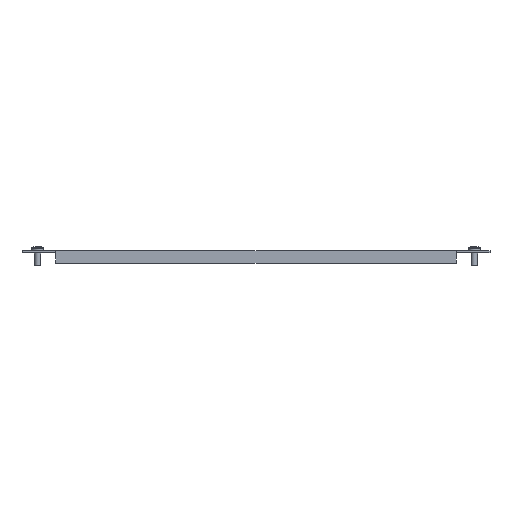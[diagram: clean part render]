
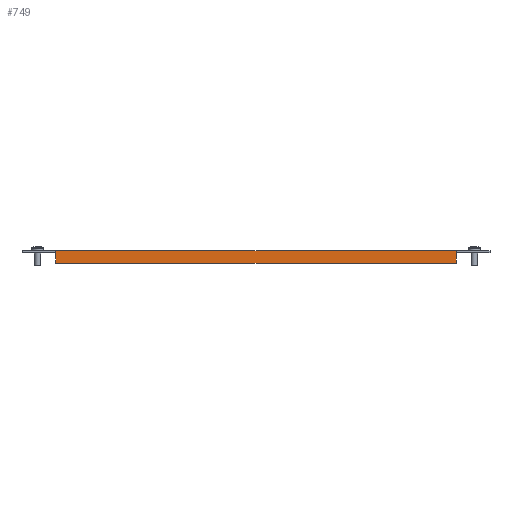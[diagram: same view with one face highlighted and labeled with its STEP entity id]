
A CAD part, front view. The second image highlights one B-rep face of the part: STEP entity #749.
In plain terms, the highlighted planar face has unit normal (0, -1, 0).
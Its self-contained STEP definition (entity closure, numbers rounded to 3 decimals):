
#15 = VECTOR ( 'NONE', #2665, 1000. ) ;
#65 = VERTEX_POINT ( 'NONE', #3348 ) ;
#91 = CARTESIAN_POINT ( 'NONE',  ( 0., -149., 0. ) ) ;
#106 = CARTESIAN_POINT ( 'NONE',  ( 0., -149., 0. ) ) ;
#261 = VERTEX_POINT ( 'NONE', #1034 ) ;
#302 = LINE ( 'NONE', #3390, #1549 ) ;
#338 = ORIENTED_EDGE ( 'NONE', *, *, #3004, .F. ) ;
#347 = EDGE_CURVE ( 'NONE', #65, #2356, #1511, .T. ) ;
#600 = VECTOR ( 'NONE', #901, 1000. ) ;
#625 = ORIENTED_EDGE ( 'NONE', *, *, #3580, .F. ) ;
#670 = VECTOR ( 'NONE', #1645, 1000. ) ;
#749 = ADVANCED_FACE ( 'NONE', ( #1200 ), #2625, .T. ) ;
#791 = VECTOR ( 'NONE', #2115, 1000. ) ;
#831 = CARTESIAN_POINT ( 'NONE',  ( -160.5, -149., 0. ) ) ;
#858 = VERTEX_POINT ( 'NONE', #1058 ) ;
#901 = DIRECTION ( 'NONE',  ( -1., 0., 0. ) ) ;
#972 = VERTEX_POINT ( 'NONE', #3078 ) ;
#1034 = CARTESIAN_POINT ( 'NONE',  ( 160.5, -149., -2.4 ) ) ;
#1058 = CARTESIAN_POINT ( 'NONE',  ( 160.5, -149., -10. ) ) ;
#1147 = ORIENTED_EDGE ( 'NONE', *, *, #3407, .F. ) ;
#1200 = FACE_OUTER_BOUND ( 'NONE', #3599, .T. ) ;
#1268 = LINE ( 'NONE', #2062, #791 ) ;
#1457 = EDGE_CURVE ( 'NONE', #261, #858, #1728, .T. ) ;
#1511 = LINE ( 'NONE', #106, #600 ) ;
#1549 = VECTOR ( 'NONE', #3605, 1000. ) ;
#1645 = DIRECTION ( 'NONE',  ( 0., 0., -1. ) ) ;
#1687 = CARTESIAN_POINT ( 'NONE',  ( 160.5, -149., -10. ) ) ;
#1703 = LINE ( 'NONE', #2826, #3503 ) ;
#1728 = LINE ( 'NONE', #1687, #670 ) ;
#1777 = CARTESIAN_POINT ( 'NONE',  ( 160.5, -149., -2.4 ) ) ;
#1976 = CARTESIAN_POINT ( 'NONE',  ( -160.5, -149., -2.4 ) ) ;
#2057 = DIRECTION ( 'NONE',  ( 0., 0., 1. ) ) ;
#2062 = CARTESIAN_POINT ( 'NONE',  ( -160.5, -149., -1.8 ) ) ;
#2115 = DIRECTION ( 'NONE',  ( 0., 0., 1. ) ) ;
#2350 = DIRECTION ( 'NONE',  ( 0., 0., -1. ) ) ;
#2356 = VERTEX_POINT ( 'NONE', #831 ) ;
#2403 = ORIENTED_EDGE ( 'NONE', *, *, #1457, .F. ) ;
#2625 = PLANE ( 'NONE',  #2951 ) ;
#2665 = DIRECTION ( 'NONE',  ( 0., 0., 1. ) ) ;
#2826 = CARTESIAN_POINT ( 'NONE',  ( -160.5, -149., 0. ) ) ;
#2915 = VERTEX_POINT ( 'NONE', #1976 ) ;
#2951 = AXIS2_PLACEMENT_3D ( 'NONE', #91, #3463, #2350 ) ;
#3004 = EDGE_CURVE ( 'NONE', #972, #2915, #1268, .T. ) ;
#3033 = ORIENTED_EDGE ( 'NONE', *, *, #3510, .T. ) ;
#3078 = CARTESIAN_POINT ( 'NONE',  ( -160.5, -149., -10. ) ) ;
#3252 = ORIENTED_EDGE ( 'NONE', *, *, #347, .T. ) ;
#3348 = CARTESIAN_POINT ( 'NONE',  ( 160.5, -149., 0. ) ) ;
#3390 = CARTESIAN_POINT ( 'NONE',  ( -160.5, -149., -10. ) ) ;
#3407 = EDGE_CURVE ( 'NONE', #2915, #2356, #1703, .T. ) ;
#3463 = DIRECTION ( 'NONE',  ( 0., -1., 0. ) ) ;
#3503 = VECTOR ( 'NONE', #2057, 1000. ) ;
#3506 = LINE ( 'NONE', #1777, #15 ) ;
#3510 = EDGE_CURVE ( 'NONE', #261, #65, #3506, .T. ) ;
#3580 = EDGE_CURVE ( 'NONE', #858, #972, #302, .T. ) ;
#3599 = EDGE_LOOP ( 'NONE', ( #2403, #3033, #3252, #1147, #338, #625 ) ) ;
#3605 = DIRECTION ( 'NONE',  ( -1., 0., 0. ) ) ;
